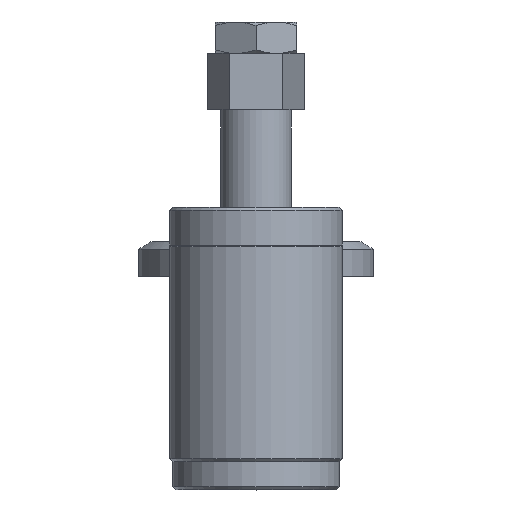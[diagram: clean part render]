
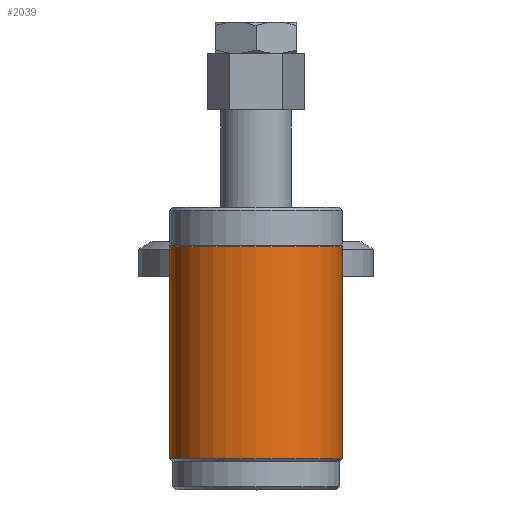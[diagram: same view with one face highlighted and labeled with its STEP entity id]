
A CAD part, left-side view. The second image highlights one B-rep face of the part: STEP entity #2039.
In plain terms, the highlighted cylindrical face has radius 27.5 mm (diameter 55 mm), a full revolution.
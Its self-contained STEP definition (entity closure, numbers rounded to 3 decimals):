
#91=CYLINDRICAL_SURFACE('',#2227,27.5);
#150=CIRCLE('',#2204,27.5);
#161=CIRCLE('',#2226,27.5);
#524=ORIENTED_EDGE('',*,*,#678,.T.);
#525=ORIENTED_EDGE('',*,*,#689,.T.);
#678=EDGE_CURVE('',#800,#800,#150,.T.);
#689=EDGE_CURVE('',#811,#811,#161,.T.);
#800=VERTEX_POINT('',#3092);
#811=VERTEX_POINT('',#3125);
#1074=EDGE_LOOP('',(#524));
#1075=EDGE_LOOP('',(#525));
#1222=FACE_BOUND('',#1074,.T.);
#1223=FACE_BOUND('',#1075,.T.);
#2039=ADVANCED_FACE('',(#1222,#1223),#91,.T.);
#2204=AXIS2_PLACEMENT_3D('',#3091,#2579,#2580);
#2226=AXIS2_PLACEMENT_3D('',#3124,#2623,#2624);
#2227=AXIS2_PLACEMENT_3D('',#3126,#2625,#2626);
#2579=DIRECTION('',(0.,0.,-1.));
#2580=DIRECTION('',(-1.,0.,0.));
#2623=DIRECTION('',(0.,0.,1.));
#2624=DIRECTION('',(1.,0.,0.));
#2625=DIRECTION('',(0.,0.,1.));
#2626=DIRECTION('',(1.,0.,0.));
#3091=CARTESIAN_POINT('',(0.,0.,77.5));
#3092=CARTESIAN_POINT('',(-27.5,0.,77.5));
#3124=CARTESIAN_POINT('',(0.,0.,10.));
#3125=CARTESIAN_POINT('',(27.5,0.,10.));
#3126=CARTESIAN_POINT('',(0.,0.,-17.2));
